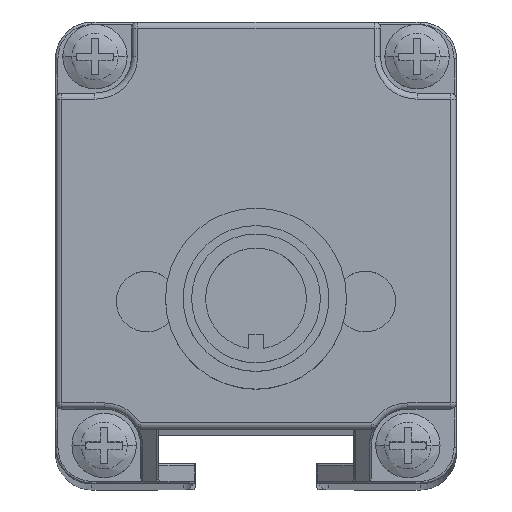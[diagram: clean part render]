
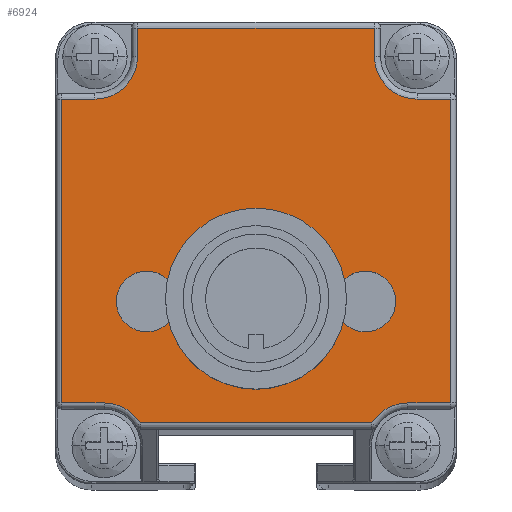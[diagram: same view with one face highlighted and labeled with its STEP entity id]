
A CAD part, top view. The second image highlights one B-rep face of the part: STEP entity #6924.
In plain terms, the highlighted planar face has unit normal (0, 0, 1).
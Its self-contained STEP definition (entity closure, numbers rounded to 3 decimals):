
#2787=CARTESIAN_POINT('',(-11.85,-19.904,
165.276));
#2788=DIRECTION('',(0.,0.,1.));
#2789=DIRECTION('',(0.849,0.528,0.));
#2790=AXIS2_PLACEMENT_3D('',#2787,#2788,#2789);
#2792=CARTESIAN_POINT('',(-12.6,12.094,165.276));
#2793=DIRECTION('',(0.,0.,1.));
#2794=DIRECTION('',(0.,-1.,0.));
#2795=AXIS2_PLACEMENT_3D('',#2792,#2793,#2794);
#2797=CARTESIAN_POINT('',(13.9,12.094,165.276));
#2798=DIRECTION('',(0.,0.,1.));
#2799=DIRECTION('',(-1.,0.,0.));
#2800=AXIS2_PLACEMENT_3D('',#2797,#2798,#2799);
#2802=CARTESIAN_POINT('',(13.15,-19.904,165.276));
#2803=DIRECTION('',(0.,0.,1.));
#2804=DIRECTION('',(0.,1.,0.));
#2805=AXIS2_PLACEMENT_3D('',#2802,#2803,#2804);
#2807=CARTESIAN_POINT('',(9.65,-8.055,165.276));
#2808=DIRECTION('',(0.,0.,1.));
#2809=DIRECTION('',(1.,-0.007,0.));
#2810=AXIS2_PLACEMENT_3D('',#2807,#2808,#2809);
#2812=CARTESIAN_POINT('',(9.65,-8.055,165.276));
#2813=DIRECTION('',(0.,0.,1.));
#2814=DIRECTION('',(-1.,0.007,0.));
#2815=AXIS2_PLACEMENT_3D('',#2812,#2813,#2814);
#2817=CARTESIAN_POINT('',(-8.35,-8.054,
165.276));
#2818=DIRECTION('',(0.,0.,1.));
#2819=DIRECTION('',(1.,0.007,0.));
#2820=AXIS2_PLACEMENT_3D('',#2817,#2818,#2819);
#2822=CARTESIAN_POINT('',(-8.35,-8.054,
165.276));
#2823=DIRECTION('',(0.,0.,1.));
#2824=DIRECTION('',(-1.,-0.007,0.));
#2825=AXIS2_PLACEMENT_3D('',#2822,#2823,#2824);
#2827=CARTESIAN_POINT('',(0.65,-8.054,
165.276));
#2828=DIRECTION('',(0.,0.,1.));
#2829=DIRECTION('',(1.,0.,0.));
#2830=AXIS2_PLACEMENT_3D('',#2827,#2828,#2829);
#2832=CARTESIAN_POINT('',(0.65,-8.054,
165.276));
#2833=DIRECTION('',(0.,0.,1.));
#2834=DIRECTION('',(-1.,0.,0.));
#2835=AXIS2_PLACEMENT_3D('',#2832,#2833,#2834);
#3017=DIRECTION('',(1.,0.,0.));
#3018=VECTOR('',#3017,19.056);
#3019=CARTESIAN_POINT('',(-8.878,-18.056,
165.276));
#3020=LINE('',#3019,#3018);
#3603=DIRECTION('',(0.,1.,0.));
#3604=VECTOR('',#3603,2.35);
#3605=CARTESIAN_POINT('',(10.4,12.094,165.276));
#3606=LINE('',#3605,#3604);
#3626=DIRECTION('',(-1.,0.,0.));
#3627=VECTOR('',#3626,19.5);
#3628=CARTESIAN_POINT('',(10.4,14.444,165.276));
#3629=LINE('',#3628,#3627);
#3650=DIRECTION('',(0.,-1.,0.));
#3651=VECTOR('',#3650,2.35);
#3652=CARTESIAN_POINT('',(-9.1,14.444,165.276));
#3653=LINE('',#3652,#3651);
#3677=DIRECTION('',(-1.,0.,0.));
#3678=VECTOR('',#3677,2.75);
#3679=CARTESIAN_POINT('',(-12.6,8.594,165.276));
#3680=LINE('',#3679,#3678);
#3848=DIRECTION('',(0.,-1.,0.));
#3849=VECTOR('',#3848,24.998);
#3850=CARTESIAN_POINT('',(-15.35,8.594,165.276));
#3851=LINE('',#3850,#3849);
#3887=DIRECTION('',(1.,0.,0.));
#3888=VECTOR('',#3887,3.5);
#3889=CARTESIAN_POINT('',(-15.35,-16.404,
165.276));
#3890=LINE('',#3889,#3888);
#4159=DIRECTION('',(-1.,0.,0.));
#4160=VECTOR('',#4159,2.75);
#4161=CARTESIAN_POINT('',(16.65,8.594,165.276));
#4162=LINE('',#4161,#4160);
#4218=DIRECTION('',(0.,1.,0.));
#4219=VECTOR('',#4218,24.998);
#4220=CARTESIAN_POINT('',(16.65,-16.404,165.276));
#4221=LINE('',#4220,#4219);
#4241=DIRECTION('',(1.,0.,0.));
#4242=VECTOR('',#4241,3.5);
#4243=CARTESIAN_POINT('',(13.15,-16.404,165.276));
#4244=LINE('',#4243,#4242);
#5986=CARTESIAN_POINT('',(12.15,-8.072,165.276));
#5987=VERTEX_POINT('',#5986);
#5988=CARTESIAN_POINT('',(7.15,-8.039,165.276));
#5989=VERTEX_POINT('',#5988);
#5990=CARTESIAN_POINT('',(-8.878,-18.056,
165.276));
#5991=CARTESIAN_POINT('',(-11.85,-16.404,
165.276));
#5992=VERTEX_POINT('',#5990);
#5993=VERTEX_POINT('',#5991);
#5994=CARTESIAN_POINT('',(-15.35,-16.404,
165.276));
#5995=VERTEX_POINT('',#5994);
#5996=CARTESIAN_POINT('',(-15.35,8.594,165.276));
#5997=VERTEX_POINT('',#5996);
#5998=CARTESIAN_POINT('',(-12.6,8.594,165.276));
#5999=VERTEX_POINT('',#5998);
#6000=CARTESIAN_POINT('',(-9.1,12.094,165.276));
#6001=VERTEX_POINT('',#6000);
#6002=CARTESIAN_POINT('',(-9.1,14.444,165.276));
#6003=VERTEX_POINT('',#6002);
#6004=CARTESIAN_POINT('',(10.4,14.444,165.276));
#6005=VERTEX_POINT('',#6004);
#6006=CARTESIAN_POINT('',(10.4,12.094,165.276));
#6007=VERTEX_POINT('',#6006);
#6008=CARTESIAN_POINT('',(13.9,8.594,165.276));
#6009=VERTEX_POINT('',#6008);
#6010=CARTESIAN_POINT('',(16.65,8.594,165.276));
#6011=VERTEX_POINT('',#6010);
#6012=CARTESIAN_POINT('',(16.65,-16.404,165.276));
#6013=VERTEX_POINT('',#6012);
#6014=CARTESIAN_POINT('',(13.15,-16.404,165.276));
#6015=VERTEX_POINT('',#6014);
#6016=CARTESIAN_POINT('',(10.178,-18.056,165.276));
#6017=VERTEX_POINT('',#6016);
#6018=CARTESIAN_POINT('',(-5.85,-8.037,
165.276));
#6019=CARTESIAN_POINT('',(-10.85,-8.07,
165.276));
#6020=VERTEX_POINT('',#6018);
#6021=VERTEX_POINT('',#6019);
#6022=CARTESIAN_POINT('',(3.65,-8.054,165.276));
#6023=CARTESIAN_POINT('',(-2.35,-8.054,
165.276));
#6024=VERTEX_POINT('',#6022);
#6025=VERTEX_POINT('',#6023);
#6873=CARTESIAN_POINT('',(0.65,0.944,
165.276));
#6874=DIRECTION('',(0.,0.,1.));
#6875=DIRECTION('',(1.,0.,0.));
#6876=AXIS2_PLACEMENT_3D('',#6873,#6874,#6875);
#6877=PLANE('',#6876);
#6879=ORIENTED_EDGE('',*,*,#6878,.T.);
#6881=ORIENTED_EDGE('',*,*,#6880,.F.);
#6883=ORIENTED_EDGE('',*,*,#6882,.F.);
#6885=ORIENTED_EDGE('',*,*,#6884,.F.);
#6887=ORIENTED_EDGE('',*,*,#6886,.T.);
#6889=ORIENTED_EDGE('',*,*,#6888,.F.);
#6891=ORIENTED_EDGE('',*,*,#6890,.F.);
#6893=ORIENTED_EDGE('',*,*,#6892,.F.);
#6895=ORIENTED_EDGE('',*,*,#6894,.T.);
#6897=ORIENTED_EDGE('',*,*,#6896,.F.);
#6899=ORIENTED_EDGE('',*,*,#6898,.F.);
#6901=ORIENTED_EDGE('',*,*,#6900,.F.);
#6903=ORIENTED_EDGE('',*,*,#6902,.T.);
#6905=ORIENTED_EDGE('',*,*,#6904,.F.);
#6906=EDGE_LOOP('',(#6879,#6881,#6883,#6885,#6887,#6889,#6891,#6893,#6895,#6897,
#6899,#6901,#6903,#6905));
#6907=FACE_OUTER_BOUND('',#6906,.F.);
#6908=ORIENTED_EDGE('',*,*,#6860,.T.);
#6909=ORIENTED_EDGE('',*,*,#6821,.T.);
#6910=EDGE_LOOP('',(#6908,#6909));
#6911=FACE_BOUND('',#6910,.F.);
#6913=ORIENTED_EDGE('',*,*,#6912,.T.);
#6915=ORIENTED_EDGE('',*,*,#6914,.T.);
#6916=EDGE_LOOP('',(#6913,#6915));
#6917=FACE_BOUND('',#6916,.F.);
#6919=ORIENTED_EDGE('',*,*,#6918,.T.);
#6921=ORIENTED_EDGE('',*,*,#6920,.T.);
#6922=EDGE_LOOP('',(#6919,#6921));
#6923=FACE_BOUND('',#6922,.F.);
#2791=CIRCLE('',#2790,3.5);
#2796=CIRCLE('',#2795,3.5);
#2801=CIRCLE('',#2800,3.5);
#2806=CIRCLE('',#2805,3.5);
#2811=CIRCLE('',#2810,2.5);
#2816=CIRCLE('',#2815,2.5);
#2821=CIRCLE('',#2820,2.5);
#2826=CIRCLE('',#2825,2.5);
#2831=CIRCLE('',#2830,3.);
#2836=CIRCLE('',#2835,3.);
#6821=EDGE_CURVE('',#5989,#5987,#2816,.T.);
#6860=EDGE_CURVE('',#5987,#5989,#2811,.T.);
#6878=EDGE_CURVE('',#5992,#5993,#2791,.T.);
#6880=EDGE_CURVE('',#5995,#5993,#3890,.T.);
#6882=EDGE_CURVE('',#5997,#5995,#3851,.T.);
#6884=EDGE_CURVE('',#5999,#5997,#3680,.T.);
#6886=EDGE_CURVE('',#5999,#6001,#2796,.T.);
#6888=EDGE_CURVE('',#6003,#6001,#3653,.T.);
#6890=EDGE_CURVE('',#6005,#6003,#3629,.T.);
#6892=EDGE_CURVE('',#6007,#6005,#3606,.T.);
#6894=EDGE_CURVE('',#6007,#6009,#2801,.T.);
#6896=EDGE_CURVE('',#6011,#6009,#4162,.T.);
#6898=EDGE_CURVE('',#6013,#6011,#4221,.T.);
#6900=EDGE_CURVE('',#6015,#6013,#4244,.T.);
#6902=EDGE_CURVE('',#6015,#6017,#2806,.T.);
#6904=EDGE_CURVE('',#5992,#6017,#3020,.T.);
#6912=EDGE_CURVE('',#6020,#6021,#2821,.T.);
#6914=EDGE_CURVE('',#6021,#6020,#2826,.T.);
#6918=EDGE_CURVE('',#6024,#6025,#2831,.T.);
#6920=EDGE_CURVE('',#6025,#6024,#2836,.T.);
#6924=ADVANCED_FACE('',(#6907,#6911,#6917,#6923),#6877,.T.);
